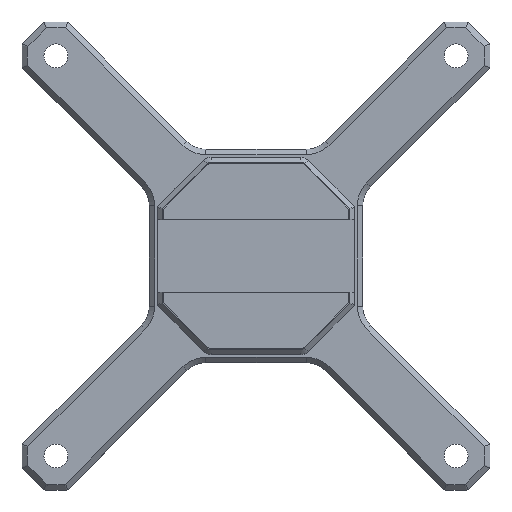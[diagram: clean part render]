
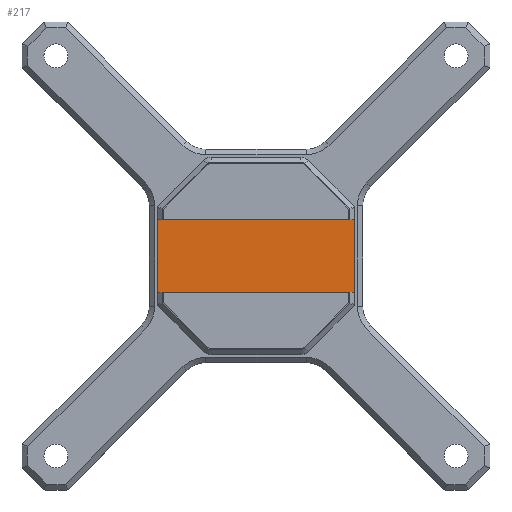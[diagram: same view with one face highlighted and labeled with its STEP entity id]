
A CAD part, top view. The second image highlights one B-rep face of the part: STEP entity #217.
In plain terms, the highlighted planar face has unit normal (0, 0, 1).
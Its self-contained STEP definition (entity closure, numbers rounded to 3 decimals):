
#217=ADVANCED_FACE('',(#420),#3219,.T.);
#420=FACE_OUTER_BOUND('',#632,.T.);
#632=EDGE_LOOP('',(#1627,#1628,#1629,#1630));
#1627=ORIENTED_EDGE('',*,*,#2173,.T.);
#1628=ORIENTED_EDGE('',*,*,#2154,.F.);
#1629=ORIENTED_EDGE('',*,*,#2174,.F.);
#1630=ORIENTED_EDGE('',*,*,#2149,.F.);
#2149=EDGE_CURVE('',#3006,#3007,#2685,.T.);
#2154=EDGE_CURVE('',#3011,#3010,#2690,.T.);
#2173=EDGE_CURVE('',#3006,#3010,#2701,.T.);
#2174=EDGE_CURVE('',#3007,#3011,#2702,.T.);
#2685=B_SPLINE_CURVE_WITH_KNOTS('',1,(#6225,#6226),.UNSPECIFIED.,.F.,.F.,
(2,2),(-31.544,-13.544),.UNSPECIFIED.);
#2690=B_SPLINE_CURVE_WITH_KNOTS('',1,(#6235,#6236),.UNSPECIFIED.,.F.,.F.,
(2,2),(-94.691,-76.691),.UNSPECIFIED.);
#2701=B_SPLINE_CURVE_WITH_KNOTS('',1,(#6315,#6316),.UNSPECIFIED.,.F.,.F.,
(2,2),(364.619,401.619),.UNSPECIFIED.);
#2702=B_SPLINE_CURVE_WITH_KNOTS('',1,(#6317,#6318),.UNSPECIFIED.,.F.,.F.,
(2,2),(364.619,401.619),.UNSPECIFIED.);
#3006=VERTEX_POINT('',#4432);
#3007=VERTEX_POINT('',#4433);
#3010=VERTEX_POINT('',#4436);
#3011=VERTEX_POINT('',#4437);
#3219=PLANE('',#3470);
#3470=AXIS2_PLACEMENT_3D('',#4122,#3640,$);
#3640=DIRECTION('',(0.,0.,1.));
#4122=CARTESIAN_POINT('',(691.527,-511.468,7.92));
#4432=CARTESIAN_POINT('',(326.907,-511.468,7.92));
#4433=CARTESIAN_POINT('',(326.907,-529.468,7.92));
#4436=CARTESIAN_POINT('',(289.907,-511.468,7.92));
#4437=CARTESIAN_POINT('',(289.907,-529.468,7.92));
#6225=CARTESIAN_POINT('',(326.907,-511.468,7.92));
#6226=CARTESIAN_POINT('',(326.907,-529.468,7.92));
#6235=CARTESIAN_POINT('',(289.907,-529.468,7.92));
#6236=CARTESIAN_POINT('',(289.907,-511.468,7.92));
#6315=CARTESIAN_POINT('',(326.907,-511.468,7.92));
#6316=CARTESIAN_POINT('',(289.907,-511.468,7.92));
#6317=CARTESIAN_POINT('',(326.907,-529.468,7.92));
#6318=CARTESIAN_POINT('',(289.907,-529.468,7.92));
